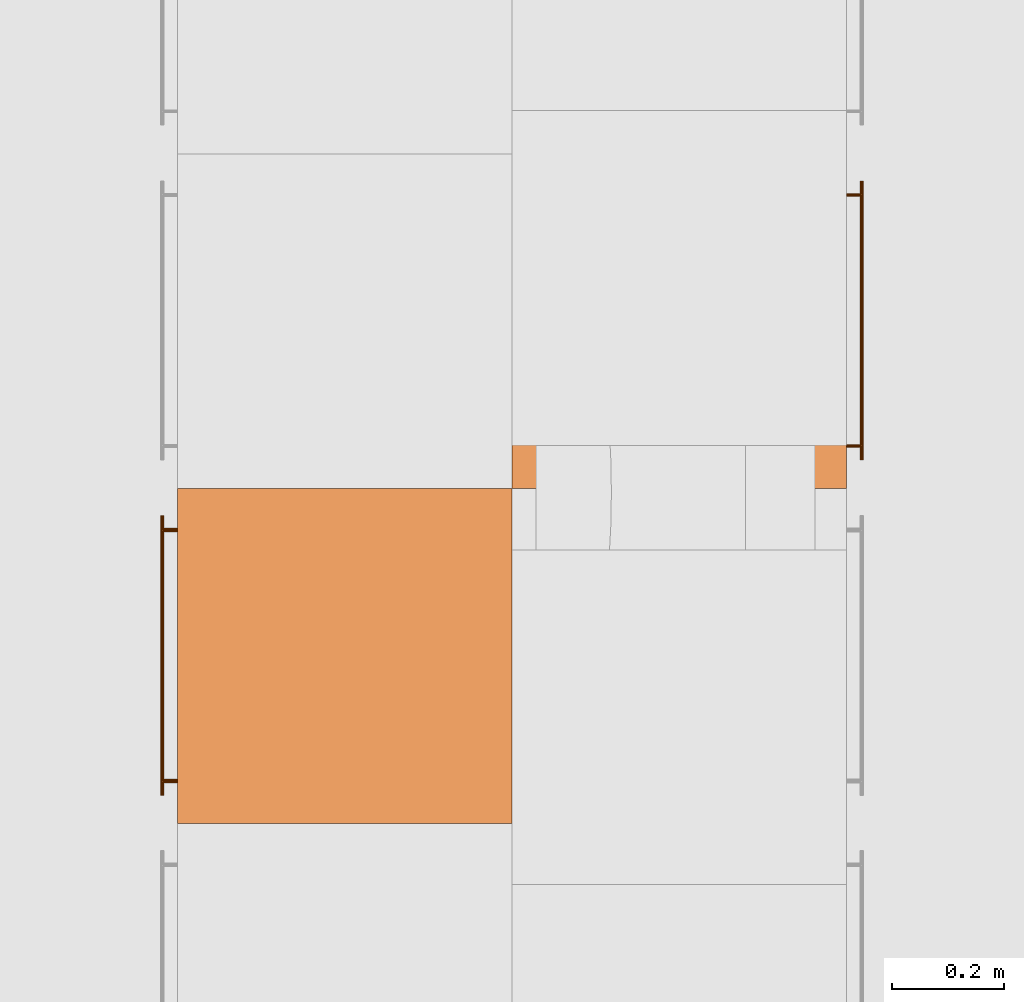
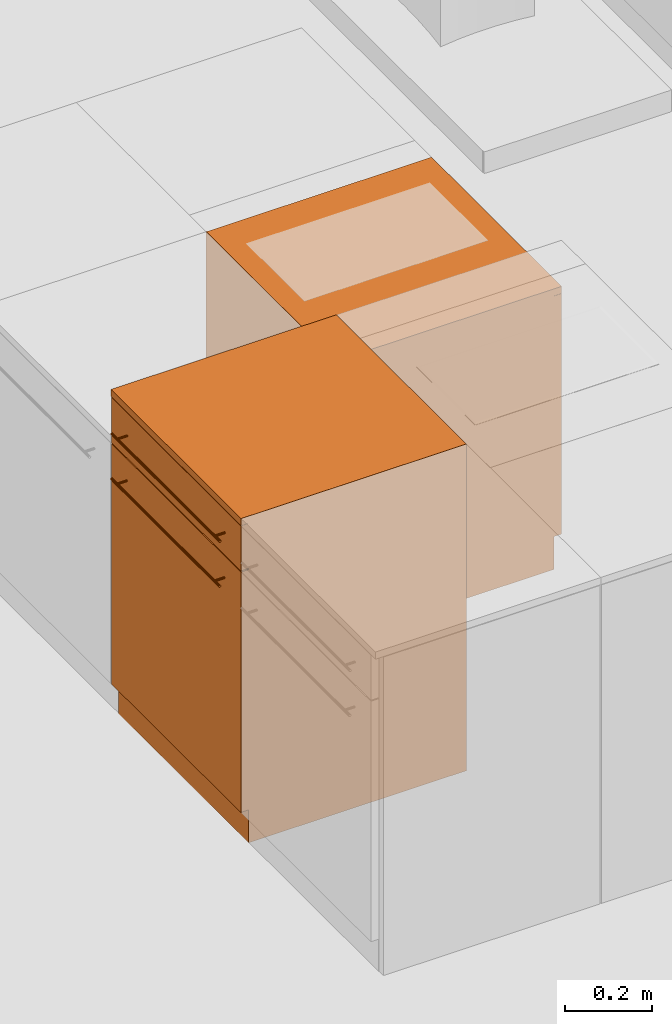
# One storey, part 144 of 167: 2 proxies.
"""IFC2X3 building model written with IfcOpenShell, lengths in millimetres."""

import ifcopenshell
import ifcopenshell.guid

model = None  # the IFC model being written
_history = None  # IfcOwnerHistory: only IFC2X3 demands one
_inside = {}  # id of a spatial element -> (the spatial element, [elements in it])
_under = {}  # id of a project, library or spatial element -> (it, [spatial elements below it])
_declared = {}  # id of a project -> (the project, [libraries it declares])
_typed = {}  # id of a type object -> (the type object, [elements of that type])
_made_of = {}  # id of a material, layer set ... -> (it, [elements and type objects made of it])


def new_model(schema):
    """Start an empty IFC model of exactly this schema.

    Asked for "IFC4X3", IfcOpenShell would pick the latest addendum, in which some entities
    have other attributes; the version numbers below select the first issue.
    IFC2X3 requires an IfcOwnerHistory on every rooted entity: one is made here for all.
    """
    global model, _history
    if schema == "IFC4X3":
        model = ifcopenshell.file(schema_version=(4, 3, 0, 0))
    else:
        model = ifcopenshell.file(schema=schema)
    _inside.clear()
    _under.clear()
    _declared.clear()
    _typed.clear()
    _made_of.clear()
    _history = None
    if model.schema == "IFC2X3":
        org = make("IfcOrganization", Name="unknown")
        user = make(
            "IfcPersonAndOrganization",
            ThePerson=make("IfcPerson", FamilyName="unknown"),
            TheOrganization=org,
        )
        app = make(
            "IfcApplication",
            ApplicationDeveloper=org,
            Version="unknown",
            ApplicationFullName="unknown",
            ApplicationIdentifier="unknown",
        )
        _history = make(
            "IfcOwnerHistory",
            OwningUser=user,
            OwningApplication=app,
            ChangeAction="ADDED",
            CreationDate=0,
        )
    return model


def make(cls, **values):
    """One entity of the class cls with the attributes given. An attribute that is None is left unset."""
    return model.create_entity(
        cls, **{name: value for name, value in values.items() if value is not None}
    )


def entity(cls, *values):
    """Any entity or typed value of the class cls, its attributes in the order of the schema. None: left unset."""
    e = model.create_entity(cls)
    for i, value in enumerate(values):
        if value is not None:
            e[i] = value
    return e


def rooted(cls, **values):
    """An entity with a GlobalId (a new one), such as an element, a storey or a relation."""
    return make(cls, GlobalId=ifcopenshell.guid.new(), OwnerHistory=_history, **values)


def si_unit(unit_type, name, prefix=None):
    """IfcSIUnit, for example si_unit("LENGTHUNIT", "METRE", prefix="MILLI")."""
    return make("IfcSIUnit", UnitType=unit_type, Prefix=prefix, Name=name)


def converted_unit(unit_type, name, factor, base, dimensions=None, offset=None):
    """IfcConversionBasedUnit, such as the inch: factor (a typed value) times the base unit."""
    return make(
        "IfcConversionBasedUnit"
        if offset is None
        else "IfcConversionBasedUnitWithOffset",
        ConversionOffset=offset,
        Dimensions=None
        if dimensions is None
        else entity("IfcDimensionalExponents", *dimensions),
        UnitType=unit_type,
        Name=name,
        ConversionFactor=make(
            "IfcMeasureWithUnit", ValueComponent=factor, UnitComponent=base
        ),
    )


def derived_unit(unit_type, elements):
    """IfcDerivedUnit: a product of units, each with its exponent."""
    return make(
        "IfcDerivedUnit",
        Elements=[
            make("IfcDerivedUnitElement", Unit=unit, Exponent=power)
            for unit, power in elements
        ],
        UnitType=unit_type,
    )


def money_unit(currency):
    """IfcMonetaryUnit."""
    return make("IfcMonetaryUnit", Currency=currency)


def assignment(units):
    """IfcUnitAssignment: the units of a project."""
    return None if units is None else make("IfcUnitAssignment", Units=units)


def point(xyz):
    """IfcCartesianPoint."""
    return None if xyz is None else make("IfcCartesianPoint", Coordinates=xyz)


def direction(xyz):
    """IfcDirection."""
    return None if xyz is None else make("IfcDirection", DirectionRatios=xyz)


def frame(location, z_axis=None, x_axis=None):
    """IfcAxis2Placement3D, a coordinate frame: its origin and axes. An axis left out is left unset."""
    return make(
        "IfcAxis2Placement3D",
        Location=point(location),
        Axis=direction(z_axis),
        RefDirection=direction(x_axis),
    )


def origin_with_axes():
    """The frame at (0, 0, 0) with the z axis (0, 0, 1) and the x axis (1, 0, 0) written out."""
    return frame((0.0, 0.0, 0.0), z_axis=(0.0, 0.0, 1.0), x_axis=(1.0, 0.0, 0.0))


def place(relative_to, where):
    """IfcLocalPlacement: puts the frame where relative to a parent placement (None: the world)."""
    return make(
        "IfcLocalPlacement", PlacementRelTo=relative_to, RelativePlacement=where
    )


def context(
    kind, dimensions, precision=None, world=None, true_north=None, identifier=None
):
    """IfcGeometricRepresentationContext, for example the 3D "Model" context."""
    return make(
        "IfcGeometricRepresentationContext",
        ContextIdentifier=identifier,
        ContextType=kind,
        CoordinateSpaceDimension=dimensions,
        Precision=precision,
        WorldCoordinateSystem=world,
        TrueNorth=true_north,
    )


def subcontext(parent, identifier, kind, view, scale=None):
    """IfcGeometricRepresentationSubContext, for example "Body" below "Model"."""
    return make(
        "IfcGeometricRepresentationSubContext",
        ContextIdentifier=identifier,
        ContextType=kind,
        ParentContext=parent,
        TargetScale=scale,
        TargetView=view,
    )


def project(units=None, contexts=None):
    """IfcProject with its units and contexts."""
    return rooted(
        "IfcProject",
        Name="project",
        RepresentationContexts=contexts,
        UnitsInContext=assignment(units),
    )


def spatial(cls, under=None, at=None, **own):
    """A site, building, storey or space (cls), placed at a placement, below another one or the project."""
    s = rooted(cls, ObjectPlacement=at, **own)
    if under is not None:
        _under.setdefault(under.id(), (under, []))[1].append(s)
    return s


def faces_of(points, faces, orient=None, outer=None):
    """IfcFace entities. A face is a list of loops; a loop is a list of indices into points, from 0.

    orient and outer hold one flag for each loop. By default every Orientation is true, the
    first loop of a face is its IfcFaceOuterBound and the others are IfcFaceBound.
    """
    made = []
    for i, loops in enumerate(faces):
        bounds = []
        for j, loop in enumerate(loops):
            is_outer = j == 0 if outer is None else outer[i][j]
            bounds.append(
                make(
                    "IfcFaceOuterBound" if is_outer else "IfcFaceBound",
                    Bound=make("IfcPolyLoop", Polygon=[points[k] for k in loop]),
                    Orientation=True if orient is None else orient[i][j],
                )
            )
        made.append(make("IfcFace", Bounds=bounds))
    return made


def open_shell(faces, orient=None, outer=None):
    """The faces of one IfcOpenShell. surface_model builds it on its shared points."""
    return ("IfcOpenShell", faces, orient, outer)


def faceted_brep(points, faces, orient=None, outer=None, voids=None):
    """IfcFacetedBrep: a solid bounded by flat faces; with voids (closed shells), ...WithVoids."""
    shared = [point(p) for p in points]
    hull = make("IfcClosedShell", CfsFaces=faces_of(shared, faces, orient, outer))
    if voids is None:
        return make("IfcFacetedBrep", Outer=hull)
    return make(
        "IfcFacetedBrepWithVoids",
        Outer=hull,
        Voids=[
            make(cls, CfsFaces=faces_of(shared, fs, o, b)) for cls, fs, o, b in voids
        ],
    )


def surface_model(cls, points, shells):
    """IfcFaceBasedSurfaceModel or IfcShellBasedSurfaceModel (cls): surfaces that need not close."""
    shared = [point(p) for p in points]
    made = [make(c, CfsFaces=faces_of(shared, fs, o, b)) for c, fs, o, b in shells]
    if cls == "IfcFaceBasedSurfaceModel":
        return make(cls, FbsmFaces=made)
    return make(cls, SbsmBoundary=made)


def shape(context_of_items, identifier, shape_type, items):
    """IfcShapeRepresentation: the items that make up one representation, for example the "Body"."""
    return make(
        "IfcShapeRepresentation",
        ContextOfItems=context_of_items,
        RepresentationIdentifier=identifier,
        RepresentationType=shape_type,
        Items=items,
    )


def made_of(thing, what):
    """Note that an element or type object is made of a material, layer set ...; save() writes the relation."""
    if what is not None:
        _made_of.setdefault(what.id(), (what, []))[1].append(thing)
    return thing


def type_object(cls, material=None, **own):
    """A type object (cls), such as IfcWallType, which elements share."""
    return made_of(rooted(cls, **own), material)


def element(
    cls,
    number,
    at=None,
    inside=None,
    cuts=None,
    type_object=None,
    material=None,
    context=None,
    identifier="Body",
    shape_type=None,
    held_by="IfcProductDefinitionShape",
    body=None,
    shapes=None,
    **own,
):
    """One element of the class cls, such as IfcWall. Its Tag is "e" and its number.

    at: its placement. inside: the storey or other place that contains it. cuts: it is an
    opening in that element (IfcRelVoidsElement). A single representation is given by context,
    identifier, shape_type and body (its items); several are given by shapes. held_by: the class
    of the entity that holds the representations. save() writes the other relations.
    """
    e = rooted(cls, Tag="e%d" % number, ObjectPlacement=at, **own)
    if body is not None:
        shapes = [shape(context, identifier, shape_type, body)]
    if shapes is not None:
        e.Representation = make(held_by, Representations=shapes)
    if inside is not None:
        _inside.setdefault(inside.id(), (inside, []))[1].append(e)
    if cuts is not None:
        rooted(
            "IfcRelVoidsElement", RelatingBuildingElement=cuts, RelatedOpeningElement=e
        )
    if type_object is not None:
        _typed.setdefault(type_object.id(), (type_object, []))[1].append(e)
    return made_of(e, material)


def aggregate(whole, parts):
    """IfcRelAggregates: a whole, such as a stair, and the parts it consists of."""
    return rooted("IfcRelAggregates", RelatingObject=whole, RelatedObjects=parts)


def save(model, path):
    """Write the relations noted so far, then the file.

    IfcRelAggregates (storeys below a building ...), IfcRelContainedInSpatialStructure (elements
    in a storey), IfcRelDefinesByType, IfcRelAssociatesMaterial and IfcRelDeclares: one each for
    every whole, place, type object, material and project.
    """
    for whole, parts in _under.values():
        aggregate(whole, parts)
    for where, things in _inside.values():
        rooted(
            "IfcRelContainedInSpatialStructure",
            RelatedElements=things,
            RelatingStructure=where,
        )
    for kind, things in _typed.values():
        rooted("IfcRelDefinesByType", RelatedObjects=things, RelatingType=kind)
    for what, things in _made_of.values():
        rooted("IfcRelAssociatesMaterial", RelatedObjects=things, RelatingMaterial=what)
    for by, libraries in _declared.values():
        rooted("IfcRelDeclares", RelatingContext=by, RelatedDefinitions=libraries)
    model.write(path)


model = new_model("IFC2X3")

# Units and contexts
model_context = context("Model", 3, precision=0.01, world=origin_with_axes(), true_north=direction((0.0, 1.0)))
plan_context = context("Plan", 3, precision=0.01, world=origin_with_axes(), true_north=direction((0.0, 1.0)))
body_context = subcontext(model_context, "Body", "Model", "MODEL_VIEW")
ifc_project = project(units=[si_unit("LENGTHUNIT", "METRE", prefix="MILLI"), si_unit("AREAUNIT", "SQUARE_METRE"), si_unit("VOLUMEUNIT", "CUBIC_METRE"), converted_unit("PLANEANGLEUNIT", "DEGREE", entity("IfcPlaneAngleMeasure", 0.0174532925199), si_unit("PLANEANGLEUNIT", "RADIAN"), dimensions=[0, 0, 0, 0, 0, 0, 0]), si_unit("SOLIDANGLEUNIT", "STERADIAN"), money_unit("EUR"), converted_unit("TIMEUNIT", "Year", entity("IfcTimeMeasure", 31556926.0), si_unit("TIMEUNIT", "SECOND"), dimensions=[0, 0, 1, 0, 0, 0, 0]), si_unit("MASSUNIT", "GRAM", prefix="KILO"), si_unit("THERMODYNAMICTEMPERATUREUNIT", "DEGREE_CELSIUS"), si_unit("LUMINOUSINTENSITYUNIT", "LUMEN"), si_unit("ENERGYUNIT", "JOULE", prefix="MEGA"), derived_unit("THERMALCONDUCTANCEUNIT", [(si_unit("POWERUNIT", "WATT"), 1), (si_unit("LENGTHUNIT", "METRE"), -1), (si_unit("THERMODYNAMICTEMPERATUREUNIT", "KELVIN"), -1)]), derived_unit("SPECIFICHEATCAPACITYUNIT", [(si_unit("ENERGYUNIT", "JOULE"), 1), (si_unit("MASSUNIT", "GRAM", prefix="KILO"), -1), (si_unit("THERMODYNAMICTEMPERATUREUNIT", "KELVIN"), -1)]), derived_unit("MASSDENSITYUNIT", [(si_unit("MASSUNIT", "GRAM", prefix="KILO"), 1), (si_unit("VOLUMEUNIT", "CUBIC_METRE"), -1)])], contexts=[model_context, plan_context])

# Site, building, storey
site_placement = place(None, origin_with_axes())
site = spatial("IfcSite", under=ifc_project, at=site_placement, Name="Site", CompositionType="ELEMENT")
building_placement = place(site_placement, origin_with_axes())
building = spatial("IfcBuilding", under=site, at=building_placement, Name="Naam gebouw", CompositionType="ELEMENT")
storey_placement = place(building_placement, origin_with_axes())
storey = spatial("IfcBuildingStorey", under=building, at=storey_placement, Name="Begane grond", CompositionType="ELEMENT", Elevation=0.0)

# Proxies
building_element_proxy_type = type_object("IfcBuildingElementProxyType", Name="Kast basis 1D 24", PredefinedType="NOTDEFINED")
proxy_1_placement = place(storey_placement, frame((25475.0, 27066.7322881, 0.0), z_axis=(0.0, 0.0, 1.0), x_axis=(0.0, -1.0, 0.0)))
element("IfcBuildingElementProxy", 1, at=proxy_1_placement, inside=storey, type_object=building_element_proxy_type, Name="__Object-x", context=body_context, shape_type="SurfaceModel", body=[
    faceted_brep([(20.0, 20.0, 760.0), (580.0, 20.0, 760.0), (580.0, 20.0, 780.0), (20.0, 20.0, 780.0), (20.0, 580.0, 760.0), (580.0, 580.0, 760.0), (580.0, 580.0, 780.0), (20.0, 580.0, 780.0)], [[[0, 1, 2, 3]], [[0, 4, 5, 1]], [[1, 5, 6, 2]], [[3, 2, 6, 7]], [[4, 0, 3, 7]], [[5, 4, 7, 6]]]),
    faceted_brep([(0.0, 20.0, 0.0), (600.0, 20.0, 0.0), (600.0, 20.0, 90.0), (0.0, 20.0, 90.0), (0.0, 600.0, 0.0), (600.0, 600.0, 0.0), (600.0, 600.0, 90.0), (0.0, 600.0, 90.0)], [[[0, 1, 2, 3]], [[0, 4, 5, 1]], [[1, 5, 6, 2]], [[3, 2, 6, 7]], [[4, 0, 3, 7]], [[5, 4, 7, 6]]]),
    faceted_brep([(0.0, 20.0, 880.0), (20.0, 20.0, 880.0), (20.0, 20.0, 900.0), (0.0, 20.0, 900.0), (0.0, 600.0, 880.0), (20.0, 600.0, 880.0), (580.0, 600.0, 880.0), (600.0, 600.0, 880.0), (600.0, 20.0, 880.0), (580.0, 20.0, 880.0), (580.0, 20.0, 900.0), (600.0, 20.0, 900.0), (600.0, 600.0, 900.0), (580.0, 600.0, 900.0), (20.0, 600.0, 900.0), (0.0, 600.0, 900.0)], [[[0, 1, 2, 3]], [[0, 4, 5, 6, 7, 8, 9, 1]], [[1, 9, 10, 2]], [[3, 2, 10, 11, 12, 13, 14, 15]], [[4, 0, 3, 15]], [[5, 4, 15, 14]], [[6, 5, 14, 13]], [[7, 6, 13, 12]], [[8, 7, 12, 11]], [[9, 8, 11, 10]]]),
    faceted_brep([(0.0, 20.0, 90.0), (20.0, 20.0, 90.0), (20.0, 20.0, 110.0), (0.0, 20.0, 110.0), (0.0, 600.0, 90.0), (20.0, 600.0, 90.0), (580.0, 600.0, 90.0), (600.0, 600.0, 90.0), (600.0, 20.0, 90.0), (580.0, 20.0, 90.0), (580.0, 20.0, 110.0), (600.0, 20.0, 110.0), (600.0, 600.0, 110.0), (580.0, 600.0, 110.0), (20.0, 600.0, 110.0), (0.0, 600.0, 110.0)], [[[0, 1, 2, 3]], [[0, 4, 5, 6, 7, 8, 9, 1]], [[1, 9, 10, 2]], [[3, 2, 10, 11, 12, 13, 14, 15]], [[4, 0, 3, 15]], [[5, 4, 15, 14]], [[6, 5, 14, 13]], [[7, 6, 13, 12]], [[8, 7, 12, 11]], [[9, 8, 11, 10]]]),
    faceted_brep([(0.0, 20.0, 110.0), (20.0, 20.0, 110.0), (20.0, 20.0, 880.0), (0.0, 20.0, 880.0), (0.0, 600.0, 110.0), (600.0, 600.0, 110.0), (600.0, 20.0, 110.0), (580.0, 20.0, 110.0), (580.0, 580.0, 110.0), (20.0, 580.0, 110.0), (20.0, 580.0, 880.0), (580.0, 580.0, 880.0), (580.0, 20.0, 880.0), (600.0, 20.0, 880.0), (600.0, 600.0, 880.0), (0.0, 600.0, 880.0)], [[[0, 1, 2, 3]], [[0, 4, 5, 6, 7, 8, 9, 1]], [[1, 9, 10, 2]], [[3, 2, 10, 11, 12, 13, 14, 15]], [[4, 0, 3, 15]], [[5, 4, 15, 14]], [[6, 5, 14, 13]], [[7, 6, 13, 12]], [[8, 7, 12, 11]], [[9, 8, 11, 10]]]),
    faceted_brep([(580.0, 20.0, 410.0), (580.0, 580.0, 410.0), (580.0, 580.0, 430.0), (580.0, 20.0, 430.0), (20.0, 20.0, 410.0), (20.0, 580.0, 410.0), (20.0, 580.0, 430.0), (20.0, 20.0, 430.0)], [[[0, 1, 2, 3]], [[0, 4, 5, 1]], [[1, 5, 6, 2]], [[3, 2, 6, 7]], [[4, 0, 3, 7]], [[5, 4, 7, 6]]]),
    faceted_brep([(0.0, 0.0, 900.0), (600.0, 0.0, 900.0), (600.0, 0.0, 920.0), (0.0, 0.0, 920.0), (0.0, 600.0, 900.0), (600.0, 600.0, 900.0), (600.0, 600.0, 920.0), (0.0, 600.0, 920.0)], [[[0, 1, 2, 3]], [[0, 4, 5, 1]], [[1, 5, 6, 2]], [[3, 2, 6, 7]], [[4, 0, 3, 7]], [[5, 4, 7, 6]]]),
    faceted_brep([(1.5, 20.0, 771.5), (598.5, 20.0, 771.5), (598.5, 0.0, 771.5), (1.5, 0.0, 771.5), (1.5, 20.0, 898.5), (598.5, 20.0, 898.5), (598.5, 0.0, 898.5), (1.5, 0.0, 898.5)], [[[0, 1, 2, 3]], [[0, 4, 5, 1]], [[1, 5, 6, 2]], [[3, 2, 6, 7]], [[4, 0, 3, 7]], [[5, 4, 7, 6]]]),
    faceted_brep([(50.0, -28.1480502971, 832.228361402), (50.0, -29.1213203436, 832.878679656), (50.0, -29.7716385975, 833.851949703), (50.0, -30.0, 835.0), (50.0, -29.7716385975, 836.148050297), (50.0, -29.1213203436, 837.121320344), (50.0, -28.1480502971, 837.771638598), (50.0, -27.0, 838.0), (50.0, -25.8519497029, 837.771638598), (50.0, -24.8786796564, 837.121320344), (50.0, -24.2283614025, 836.148050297), (50.0, -24.0, 835.0), (50.0, -24.2283614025, 833.851949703), (50.0, -24.8786796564, 832.878679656), (50.0, -25.8519497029, 832.228361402), (50.0, -27.0, 832.0), (550.0, -28.1480502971, 832.228361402), (550.0, -29.1213203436, 832.878679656), (550.0, -29.7716385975, 833.851949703), (550.0, -30.0, 835.0), (550.0, -29.7716385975, 836.148050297), (550.0, -29.1213203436, 837.121320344), (550.0, -28.1480502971, 837.771638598), (550.0, -27.0, 838.0), (550.0, -25.8519497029, 837.771638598), (550.0, -24.8786796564, 837.121320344), (550.0, -24.2283614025, 836.148050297), (550.0, -24.0, 835.0), (550.0, -24.2283614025, 833.851949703), (550.0, -24.8786796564, 832.878679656), (550.0, -25.8519497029, 832.228361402), (550.0, -27.0, 832.0)], [[[0, 1, 2, 3, 4, 5, 6, 7, 8, 9, 10, 11, 12, 13, 14, 15]], [[1, 0, 16, 17]], [[2, 1, 17, 18]], [[3, 2, 18, 19]], [[4, 3, 19, 20]], [[5, 4, 20, 21]], [[6, 5, 21, 22]], [[7, 6, 22, 23]], [[8, 7, 23, 24]], [[9, 8, 24, 25]], [[10, 9, 25, 26]], [[11, 10, 26, 27]], [[12, 11, 27, 28]], [[13, 12, 28, 29]], [[14, 13, 29, 30]], [[15, 14, 30, 31]], [[0, 15, 31, 16]], [[16, 31, 30, 29, 28, 27, 26, 25, 24, 23, 22, 21, 20, 19, 18, 17]]]),
    surface_model("IfcShellBasedSurfaceModel", [(72.6903011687, -24.156637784, 834.043291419), (72.5, -24.0, 835.0), (72.5, 0.0, 835.0), (72.6903011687, 0.0, 834.043291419), (72.6903011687, -24.156637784, 835.956708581), (72.6903011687, 0.0, 835.956708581), (73.232233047, 0.0, 836.767766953), (74.0432914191, 0.0, 837.309698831), (75.0, 0.0, 837.5), (75.9567085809, 0.0, 837.309698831), (76.767766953, 0.0, 836.767766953), (77.3096988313, 0.0, 835.956708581), (77.5, 0.0, 835.0), (77.3096988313, 0.0, 834.043291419), (76.767766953, 0.0, 833.232233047), (75.9567085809, 0.0, 832.690301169), (75.0, 0.0, 832.5), (74.0432914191, 0.0, 832.690301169), (73.232233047, 0.0, 833.232233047), (73.232233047, -24.5761600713, 833.232233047), (73.232233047, -24.5761600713, 836.767766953), (74.0432914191, -25.0855049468, 837.309698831), (75.0, -25.3416876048, 837.5), (75.9567085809, -25.0855049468, 837.309698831), (76.767766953, -24.5761600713, 836.767766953), (77.3096988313, -24.156637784, 835.956708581), (77.5, -24.0, 835.0), (77.3096988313, -24.156637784, 834.043291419), (76.767766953, -24.5761600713, 833.232233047), (75.9567085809, -25.0855049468, 832.690301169), (75.0, -25.3416876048, 832.5), (74.0432914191, -25.0855049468, 832.690301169)], [open_shell([[[0, 1, 2, 3]], [[1, 4, 5, 2]], [[3, 2, 5, 6, 7, 8, 9, 10, 11, 12, 13, 14, 15, 16, 17, 18]], [[19, 0, 3, 18]], [[4, 20, 6, 5]], [[20, 21, 7, 6]], [[21, 22, 8, 7]], [[22, 23, 9, 8]], [[23, 24, 10, 9]], [[24, 25, 11, 10]], [[25, 26, 12, 11]], [[26, 27, 13, 12]], [[27, 28, 14, 13]], [[28, 29, 15, 14]], [[29, 30, 16, 15]], [[30, 31, 17, 16]], [[31, 19, 18, 17]]])]),
    surface_model("IfcShellBasedSurfaceModel", [(522.690301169, -24.156637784, 834.043291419), (522.5, -24.0, 835.0), (522.5, 0.0, 835.0), (522.690301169, 0.0, 834.043291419), (522.690301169, -24.156637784, 835.956708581), (522.690301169, 0.0, 835.956708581), (523.232233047, 0.0, 836.767766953), (524.043291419, 0.0, 837.309698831), (525.0, 0.0, 837.5), (525.956708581, 0.0, 837.309698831), (526.767766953, 0.0, 836.767766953), (527.309698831, 0.0, 835.956708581), (527.5, 0.0, 835.0), (527.309698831, 0.0, 834.043291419), (526.767766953, 0.0, 833.232233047), (525.956708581, 0.0, 832.690301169), (525.0, 0.0, 832.5), (524.043291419, 0.0, 832.690301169), (523.232233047, 0.0, 833.232233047), (523.232233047, -24.5761600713, 833.232233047), (523.232233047, -24.5761600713, 836.767766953), (524.043291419, -25.0855049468, 837.309698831), (525.0, -25.3416876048, 837.5), (525.956708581, -25.0855049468, 837.309698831), (526.767766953, -24.5761600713, 836.767766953), (527.309698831, -24.156637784, 835.956708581), (527.5, -24.0, 835.0), (527.309698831, -24.156637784, 834.043291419), (526.767766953, -24.5761600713, 833.232233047), (525.956708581, -25.0855049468, 832.690301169), (525.0, -25.3416876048, 832.5), (524.043291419, -25.0855049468, 832.690301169)], [open_shell([[[0, 1, 2, 3]], [[1, 4, 5, 2]], [[3, 2, 5, 6, 7, 8, 9, 10, 11, 12, 13, 14, 15, 16, 17, 18]], [[19, 0, 3, 18]], [[4, 20, 6, 5]], [[20, 21, 7, 6]], [[21, 22, 8, 7]], [[22, 23, 9, 8]], [[23, 24, 10, 9]], [[24, 25, 11, 10]], [[25, 26, 12, 11]], [[26, 27, 13, 12]], [[27, 28, 14, 13]], [[28, 29, 15, 14]], [[29, 30, 16, 15]], [[30, 31, 17, 16]], [[31, 19, 18, 17]]])]),
    faceted_brep([(1.5, 20.0, 91.5), (598.5, 20.0, 91.5), (598.5, 0.0, 91.5), (1.5, 0.0, 91.5), (1.5, 20.0, 768.5), (598.5, 20.0, 768.5), (598.5, 0.0, 768.5), (1.5, 0.0, 768.5)], [[[0, 1, 2, 3]], [[0, 4, 5, 1]], [[1, 5, 6, 2]], [[3, 2, 6, 7]], [[4, 0, 3, 7]], [[5, 4, 7, 6]]]),
    faceted_brep([(48.5, -28.1480502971, 704.694261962), (48.5, -29.1213203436, 705.344580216), (48.5, -29.7716385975, 706.317850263), (48.5, -30.0, 707.46590056), (48.5, -29.7716385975, 708.613950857), (48.5, -29.1213203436, 709.587220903), (48.5, -28.1480502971, 710.237539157), (48.5, -27.0, 710.46590056), (48.5, -25.8519497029, 710.237539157), (48.5, -24.8786796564, 709.587220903), (48.5, -24.2283614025, 708.613950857), (48.5, -24.0, 707.46590056), (48.5, -24.2283614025, 706.317850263), (48.5, -24.8786796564, 705.344580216), (48.5, -25.8519497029, 704.694261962), (48.5, -27.0, 704.46590056), (548.5, -28.1480502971, 704.694261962), (548.5, -29.1213203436, 705.344580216), (548.5, -29.7716385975, 706.317850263), (548.5, -30.0, 707.46590056), (548.5, -29.7716385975, 708.613950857), (548.5, -29.1213203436, 709.587220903), (548.5, -28.1480502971, 710.237539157), (548.5, -27.0, 710.46590056), (548.5, -25.8519497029, 710.237539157), (548.5, -24.8786796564, 709.587220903), (548.5, -24.2283614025, 708.613950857), (548.5, -24.0, 707.46590056), (548.5, -24.2283614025, 706.317850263), (548.5, -24.8786796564, 705.344580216), (548.5, -25.8519497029, 704.694261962), (548.5, -27.0, 704.46590056)], [[[0, 1, 2, 3, 4, 5, 6, 7, 8, 9, 10, 11, 12, 13, 14, 15]], [[1, 0, 16, 17]], [[2, 1, 17, 18]], [[3, 2, 18, 19]], [[4, 3, 19, 20]], [[5, 4, 20, 21]], [[6, 5, 21, 22]], [[7, 6, 22, 23]], [[8, 7, 23, 24]], [[9, 8, 24, 25]], [[10, 9, 25, 26]], [[11, 10, 26, 27]], [[12, 11, 27, 28]], [[13, 12, 28, 29]], [[14, 13, 29, 30]], [[15, 14, 30, 31]], [[0, 15, 31, 16]], [[16, 31, 30, 29, 28, 27, 26, 25, 24, 23, 22, 21, 20, 19, 18, 17]]]),
    surface_model("IfcShellBasedSurfaceModel", [(71.1903011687, -24.156637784, 706.509191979), (71.0, -24.0, 707.46590056), (71.0, 0.0, 707.46590056), (71.1903011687, 0.0, 706.509191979), (71.1903011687, -24.156637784, 708.422609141), (71.1903011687, 0.0, 708.422609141), (71.732233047, 0.0, 709.233667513), (72.5432914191, 0.0, 709.775599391), (73.5, 0.0, 709.96590056), (74.4567085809, 0.0, 709.775599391), (75.267766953, 0.0, 709.233667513), (75.8096988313, 0.0, 708.422609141), (76.0, 0.0, 707.46590056), (75.8096988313, 0.0, 706.509191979), (75.267766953, 0.0, 705.698133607), (74.4567085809, 0.0, 705.156201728), (73.5, 0.0, 704.96590056), (72.5432914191, 0.0, 705.156201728), (71.732233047, 0.0, 705.698133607), (71.732233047, -24.5761600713, 705.698133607), (71.732233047, -24.5761600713, 709.233667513), (72.5432914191, -25.0855049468, 709.775599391), (73.5, -25.3416876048, 709.96590056), (74.4567085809, -25.0855049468, 709.775599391), (75.267766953, -24.5761600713, 709.233667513), (75.8096988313, -24.156637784, 708.422609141), (76.0, -24.0, 707.46590056), (75.8096988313, -24.156637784, 706.509191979), (75.267766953, -24.5761600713, 705.698133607), (74.4567085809, -25.0855049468, 705.156201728), (73.5, -25.3416876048, 704.96590056), (72.5432914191, -25.0855049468, 705.156201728)], [open_shell([[[0, 1, 2, 3]], [[1, 4, 5, 2]], [[3, 2, 5, 6, 7, 8, 9, 10, 11, 12, 13, 14, 15, 16, 17, 18]], [[19, 0, 3, 18]], [[4, 20, 6, 5]], [[20, 21, 7, 6]], [[21, 22, 8, 7]], [[22, 23, 9, 8]], [[23, 24, 10, 9]], [[24, 25, 11, 10]], [[25, 26, 12, 11]], [[26, 27, 13, 12]], [[27, 28, 14, 13]], [[28, 29, 15, 14]], [[29, 30, 16, 15]], [[30, 31, 17, 16]], [[31, 19, 18, 17]]])]),
    surface_model("IfcShellBasedSurfaceModel", [(521.190301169, -24.156637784, 706.509191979), (521.0, -24.0, 707.46590056), (521.0, 0.0, 707.46590056), (521.190301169, 0.0, 706.509191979), (521.190301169, -24.156637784, 708.422609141), (521.190301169, 0.0, 708.422609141), (521.732233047, 0.0, 709.233667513), (522.543291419, 0.0, 709.775599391), (523.5, 0.0, 709.96590056), (524.456708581, 0.0, 709.775599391), (525.267766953, 0.0, 709.233667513), (525.809698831, 0.0, 708.422609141), (526.0, 0.0, 707.46590056), (525.809698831, 0.0, 706.509191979), (525.267766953, 0.0, 705.698133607), (524.456708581, 0.0, 705.156201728), (523.5, 0.0, 704.96590056), (522.543291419, 0.0, 705.156201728), (521.732233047, 0.0, 705.698133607), (521.732233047, -24.5761600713, 705.698133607), (521.732233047, -24.5761600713, 709.233667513), (522.543291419, -25.0855049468, 709.775599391), (523.5, -25.3416876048, 709.96590056), (524.456708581, -25.0855049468, 709.775599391), (525.267766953, -24.5761600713, 709.233667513), (525.809698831, -24.156637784, 708.422609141), (526.0, -24.0, 707.46590056), (525.809698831, -24.156637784, 706.509191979), (525.267766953, -24.5761600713, 705.698133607), (524.456708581, -25.0855049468, 705.156201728), (523.5, -25.3416876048, 704.96590056), (522.543291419, -25.0855049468, 705.156201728)], [open_shell([[[0, 1, 2, 3]], [[1, 4, 5, 2]], [[3, 2, 5, 6, 7, 8, 9, 10, 11, 12, 13, 14, 15, 16, 17, 18]], [[19, 0, 3, 18]], [[4, 20, 6, 5]], [[20, 21, 7, 6]], [[21, 22, 8, 7]], [[22, 23, 9, 8]], [[23, 24, 10, 9]], [[24, 25, 11, 10]], [[25, 26, 12, 11]], [[26, 27, 13, 12]], [[27, 28, 14, 13]], [[28, 29, 15, 14]], [[29, 30, 16, 15]], [[30, 31, 17, 16]], [[31, 19, 18, 17]]])]),
])
proxy_2_placement = place(storey_placement, frame((26675.0, 27666.7322881, 0.0), z_axis=(0.0, 0.0, 1.0), x_axis=(0.0, 1.0, 0.0)))
element("IfcBuildingElementProxy", 2, at=proxy_2_placement, inside=storey, type_object=building_element_proxy_type, Name="__Object-x", context=body_context, shape_type="SurfaceModel", body=[
    faceted_brep([(0.0, 20.0, 0.0), (0.0, 20.0, 90.0), (-600.0, 20.0, 90.0), (-600.0, 20.0, 0.0), (0.0, 600.0, 0.0), (0.0, 600.0, 90.0), (-600.0, 600.0, 90.0), (-600.0, 600.0, 0.0)], [[[0, 1, 2, 3]], [[4, 5, 1, 0]], [[1, 5, 6, 2]], [[3, 2, 6, 7]], [[0, 3, 7, 4]], [[7, 6, 5, 4]]]),
    faceted_brep([(0.0, 20.0, 750.0), (0.0, 20.0, 770.0), (-20.0, 20.0, 770.0), (-20.0, 20.0, 750.0), (0.0, 600.0, 750.0), (0.0, 600.0, 770.0), (-20.0, 600.0, 770.0), (-580.0, 600.0, 770.0), (-600.0, 600.0, 770.0), (-600.0, 20.0, 770.0), (-580.0, 20.0, 770.0), (-580.0, 20.0, 750.0), (-600.0, 20.0, 750.0), (-600.0, 600.0, 750.0), (-580.0, 600.0, 750.0), (-20.0, 600.0, 750.0)], [[[0, 1, 2, 3]], [[4, 5, 1, 0]], [[1, 5, 6, 7, 8, 9, 10, 2]], [[3, 2, 10, 11]], [[0, 3, 11, 12, 13, 14, 15, 4]], [[15, 6, 5, 4]], [[14, 7, 6, 15]], [[13, 8, 7, 14]], [[12, 9, 8, 13]], [[11, 10, 9, 12]]]),
    faceted_brep([(0.0, 20.0, 90.0), (0.0, 20.0, 110.0), (-20.0, 20.0, 110.0), (-20.0, 20.0, 90.0), (0.0, 600.0, 90.0), (0.0, 600.0, 110.0), (-20.0, 600.0, 110.0), (-580.0, 600.0, 110.0), (-600.0, 600.0, 110.0), (-600.0, 20.0, 110.0), (-580.0, 20.0, 110.0), (-580.0, 20.0, 90.0), (-600.0, 20.0, 90.0), (-600.0, 600.0, 90.0), (-580.0, 600.0, 90.0), (-20.0, 600.0, 90.0)], [[[0, 1, 2, 3]], [[4, 5, 1, 0]], [[1, 5, 6, 7, 8, 9, 10, 2]], [[3, 2, 10, 11]], [[0, 3, 11, 12, 13, 14, 15, 4]], [[15, 6, 5, 4]], [[14, 7, 6, 15]], [[13, 8, 7, 14]], [[12, 9, 8, 13]], [[11, 10, 9, 12]]]),
    faceted_brep([(0.0, 20.0, 110.0), (0.0, 20.0, 750.0), (-20.0, 20.0, 750.0), (-20.0, 20.0, 110.0), (0.0, 600.0, 110.0), (0.0, 600.0, 750.0), (-600.0, 600.0, 750.0), (-600.0, 20.0, 750.0), (-580.0, 20.0, 750.0), (-580.0, 580.0, 750.0), (-20.0, 580.0, 750.0), (-20.0, 580.0, 110.0), (-580.0, 580.0, 110.0), (-580.0, 20.0, 110.0), (-600.0, 20.0, 110.0), (-600.0, 600.0, 110.0)], [[[0, 1, 2, 3]], [[4, 5, 1, 0]], [[1, 5, 6, 7, 8, 9, 10, 2]], [[3, 2, 10, 11]], [[0, 3, 11, 12, 13, 14, 15, 4]], [[15, 6, 5, 4]], [[14, 7, 6, 15]], [[13, 8, 7, 14]], [[12, 9, 8, 13]], [[11, 10, 9, 12]]]),
    faceted_brep([(-580.0, 20.0, 410.0), (-580.0, 20.0, 430.0), (-580.0, 580.0, 430.0), (-580.0, 580.0, 410.0), (-20.0, 20.0, 410.0), (-20.0, 20.0, 430.0), (-20.0, 580.0, 430.0), (-20.0, 580.0, 410.0)], [[[0, 1, 2, 3]], [[4, 5, 1, 0]], [[1, 5, 6, 2]], [[3, 2, 6, 7]], [[0, 3, 7, 4]], [[7, 6, 5, 4]]]),
    faceted_brep([(0.0, 0.0, 770.0), (0.0, 0.0, 790.0), (-600.0, 0.0, 790.0), (-600.0, 0.0, 770.0), (0.0, 600.0, 770.0), (0.0, 600.0, 790.0), (-600.0, 600.0, 790.0), (-600.0, 600.0, 770.0)], [[[0, 1, 2, 3]], [[4, 5, 1, 0]], [[1, 5, 6, 2]], [[3, 2, 6, 7]], [[0, 3, 7, 4]], [[7, 6, 5, 4]]]),
    faceted_brep([(-1.5, 20.0, 91.5), (-1.5, 0.0, 91.5), (-598.5, 0.0, 91.5), (-598.5, 20.0, 91.5), (-1.5, 20.0, 768.5), (-1.5, 0.0, 768.5), (-598.5, 0.0, 768.5), (-598.5, 20.0, 768.5)], [[[0, 1, 2, 3]], [[4, 5, 1, 0]], [[1, 5, 6, 2]], [[3, 2, 6, 7]], [[0, 3, 7, 4]], [[7, 6, 5, 4]]]),
    faceted_brep([(-48.5, -28.1480502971, 704.694261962), (-48.5, -27.0, 704.46590056), (-48.5, -25.8519497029, 704.694261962), (-48.5, -24.8786796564, 705.344580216), (-48.5, -24.2283614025, 706.317850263), (-48.5, -24.0, 707.46590056), (-48.5, -24.2283614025, 708.613950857), (-48.5, -24.8786796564, 709.587220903), (-48.5, -25.8519497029, 710.237539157), (-48.5, -27.0, 710.46590056), (-48.5, -28.1480502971, 710.237539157), (-48.5, -29.1213203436, 709.587220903), (-48.5, -29.7716385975, 708.613950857), (-48.5, -30.0, 707.46590056), (-48.5, -29.7716385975, 706.317850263), (-48.5, -29.1213203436, 705.344580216), (-548.5, -28.1480502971, 704.694261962), (-548.5, -27.0, 704.46590056), (-548.5, -25.8519497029, 704.694261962), (-548.5, -24.8786796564, 705.344580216), (-548.5, -24.2283614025, 706.317850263), (-548.5, -24.0, 707.46590056), (-548.5, -24.2283614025, 708.613950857), (-548.5, -24.8786796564, 709.587220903), (-548.5, -25.8519497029, 710.237539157), (-548.5, -27.0, 710.46590056), (-548.5, -28.1480502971, 710.237539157), (-548.5, -29.1213203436, 709.587220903), (-548.5, -29.7716385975, 708.613950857), (-548.5, -30.0, 707.46590056), (-548.5, -29.7716385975, 706.317850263), (-548.5, -29.1213203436, 705.344580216)], [[[0, 1, 2, 3, 4, 5, 6, 7, 8, 9, 10, 11, 12, 13, 14, 15]], [[0, 16, 17, 1]], [[1, 17, 18, 2]], [[2, 18, 19, 3]], [[3, 19, 20, 4]], [[4, 20, 21, 5]], [[5, 21, 22, 6]], [[6, 22, 23, 7]], [[7, 23, 24, 8]], [[8, 24, 25, 9]], [[9, 25, 26, 10]], [[10, 26, 27, 11]], [[11, 27, 28, 12]], [[12, 28, 29, 13]], [[13, 29, 30, 14]], [[14, 30, 31, 15]], [[15, 31, 16, 0]], [[16, 31, 30, 29, 28, 27, 26, 25, 24, 23, 22, 21, 20, 19, 18, 17]]]),
    surface_model("IfcShellBasedSurfaceModel", [(-71.1903011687, -24.156637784, 706.509191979), (-71.1903011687, 0.0, 706.509191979), (-71.0, 0.0, 707.46590056), (-71.0, -24.0, 707.46590056), (-71.732233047, -24.5761600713, 705.698133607), (-71.732233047, 0.0, 705.698133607), (-72.5432914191, 0.0, 705.156201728), (-73.5, 0.0, 704.96590056), (-74.4567085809, 0.0, 705.156201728), (-75.267766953, 0.0, 705.698133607), (-75.8096988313, 0.0, 706.509191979), (-76.0, 0.0, 707.46590056), (-75.8096988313, 0.0, 708.422609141), (-75.267766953, 0.0, 709.233667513), (-74.4567085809, 0.0, 709.775599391), (-73.5, 0.0, 709.96590056), (-72.5432914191, 0.0, 709.775599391), (-71.732233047, 0.0, 709.233667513), (-71.1903011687, 0.0, 708.422609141), (-71.1903011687, -24.156637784, 708.422609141), (-72.5432914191, -25.0855049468, 705.156201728), (-73.5, -25.3416876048, 704.96590056), (-74.4567085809, -25.0855049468, 705.156201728), (-75.267766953, -24.5761600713, 705.698133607), (-75.8096988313, -24.156637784, 706.509191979), (-76.0, -24.0, 707.46590056), (-75.8096988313, -24.156637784, 708.422609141), (-75.267766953, -24.5761600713, 709.233667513), (-74.4567085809, -25.0855049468, 709.775599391), (-73.5, -25.3416876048, 709.96590056), (-72.5432914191, -25.0855049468, 709.775599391), (-71.732233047, -24.5761600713, 709.233667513)], [open_shell([[[0, 1, 2, 3]], [[4, 5, 1, 0]], [[1, 5, 6, 7, 8, 9, 10, 11, 12, 13, 14, 15, 16, 17, 18, 2]], [[3, 2, 18, 19]], [[20, 6, 5, 4]], [[21, 7, 6, 20]], [[22, 8, 7, 21]], [[23, 9, 8, 22]], [[24, 10, 9, 23]], [[25, 11, 10, 24]], [[26, 12, 11, 25]], [[27, 13, 12, 26]], [[28, 14, 13, 27]], [[29, 15, 14, 28]], [[30, 16, 15, 29]], [[31, 17, 16, 30]], [[19, 18, 17, 31]]])]),
    surface_model("IfcShellBasedSurfaceModel", [(-521.190301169, -24.156637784, 706.509191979), (-521.190301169, 0.0, 706.509191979), (-521.0, 0.0, 707.46590056), (-521.0, -24.0, 707.46590056), (-521.732233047, -24.5761600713, 705.698133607), (-521.732233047, 0.0, 705.698133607), (-522.543291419, 0.0, 705.156201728), (-523.5, 0.0, 704.96590056), (-524.456708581, 0.0, 705.156201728), (-525.267766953, 0.0, 705.698133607), (-525.809698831, 0.0, 706.509191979), (-526.0, 0.0, 707.46590056), (-525.809698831, 0.0, 708.422609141), (-525.267766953, 0.0, 709.233667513), (-524.456708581, 0.0, 709.775599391), (-523.5, 0.0, 709.96590056), (-522.543291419, 0.0, 709.775599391), (-521.732233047, 0.0, 709.233667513), (-521.190301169, 0.0, 708.422609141), (-521.190301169, -24.156637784, 708.422609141), (-522.543291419, -25.0855049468, 705.156201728), (-523.5, -25.3416876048, 704.96590056), (-524.456708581, -25.0855049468, 705.156201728), (-525.267766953, -24.5761600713, 705.698133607), (-525.809698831, -24.156637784, 706.509191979), (-526.0, -24.0, 707.46590056), (-525.809698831, -24.156637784, 708.422609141), (-525.267766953, -24.5761600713, 709.233667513), (-524.456708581, -25.0855049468, 709.775599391), (-523.5, -25.3416876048, 709.96590056), (-522.543291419, -25.0855049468, 709.775599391), (-521.732233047, -24.5761600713, 709.233667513)], [open_shell([[[0, 1, 2, 3]], [[4, 5, 1, 0]], [[1, 5, 6, 7, 8, 9, 10, 11, 12, 13, 14, 15, 16, 17, 18, 2]], [[3, 2, 18, 19]], [[20, 6, 5, 4]], [[21, 7, 6, 20]], [[22, 8, 7, 21]], [[23, 9, 8, 22]], [[24, 10, 9, 23]], [[25, 11, 10, 24]], [[26, 12, 11, 25]], [[27, 13, 12, 26]], [[28, 14, 13, 27]], [[29, 15, 14, 28]], [[30, 16, 15, 29]], [[31, 17, 16, 30]], [[19, 18, 17, 31]]])]),
])

save(model, "model.ifc")
